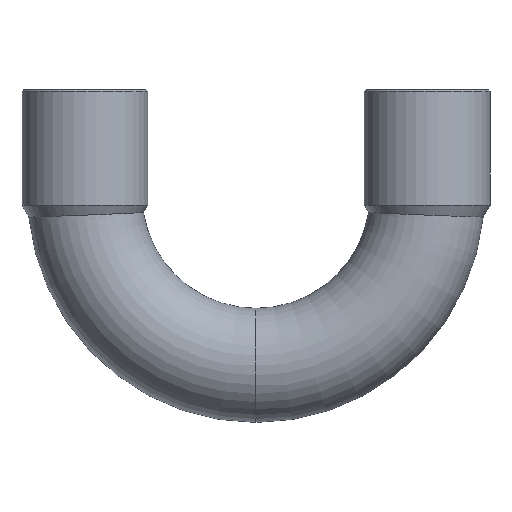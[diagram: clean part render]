
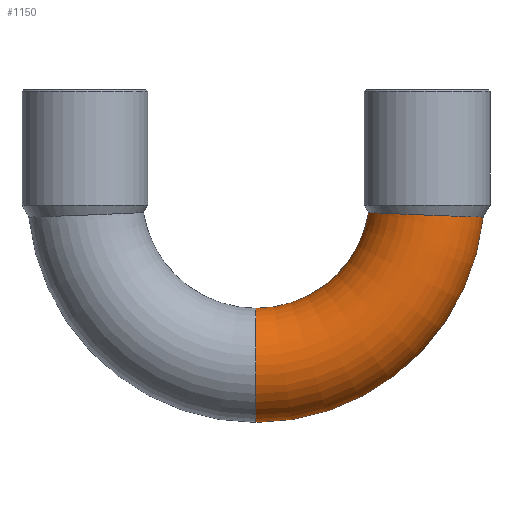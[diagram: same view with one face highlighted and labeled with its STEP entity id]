
A CAD part, front view. The second image highlights one B-rep face of the part: STEP entity #1150.
In plain terms, the highlighted toroidal (fillet/blend) face has major radius 18 mm and minor radius 6 mm.
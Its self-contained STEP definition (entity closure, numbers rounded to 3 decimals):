
#51=CARTESIAN_POINT('',(22.035,0.,-24.0));
#52=VERTEX_POINT('',#51);
#85=CARTESIAN_POINT('',(22.035,0.,-12.0));
#86=VERTEX_POINT('',#85);
#109=CARTESIAN_POINT('',(45.914,0.,-2.41));
#110=VERTEX_POINT('',#109);
#111=CARTESIAN_POINT('',(22.035,0.,0.0));
#112=DIRECTION('',(0.0,-1.0,0.0));
#113=DIRECTION('',(0.0,0.0,-1.0));
#114=AXIS2_PLACEMENT_3D('',#111,#112,#113);
#115=CIRCLE('',#114,24.0);
#116=EDGE_CURVE('',#52,#110,#115,.T.);
#119=CARTESIAN_POINT('',(33.879,0.,-1.93));
#120=VERTEX_POINT('',#119);
#121=CARTESIAN_POINT('',(22.035,0.,0.0));
#122=DIRECTION('',(0.0,1.0,0.0));
#123=DIRECTION('',(0.0,0.0,-1.0));
#124=AXIS2_PLACEMENT_3D('',#121,#122,#123);
#125=CIRCLE('',#124,12.0);
#126=EDGE_CURVE('',#120,#86,#125,.T.);
#1111=CARTESIAN_POINT('',(22.035,0.,0.0));
#1112=DIRECTION('',(0.0,-1.0,0.0));
#1113=DIRECTION('',(0.0,0.0,-1.0));
#1114=AXIS2_PLACEMENT_3D('',#1111,#1112,#1113);
#1115=TOROIDAL_SURFACE('',#1114,18.0,6.);
#1116=ORIENTED_EDGE('',*,*,#116,.T.);
#1117=CARTESIAN_POINT('',(45.914,0.,-2.41));
#1118=CARTESIAN_POINT('',(45.914,-0.442,-2.41));
#1119=CARTESIAN_POINT('',(45.865,-0.882,-2.409));
#1120=CARTESIAN_POINT('',(45.671,-1.744,-2.402));
#1121=CARTESIAN_POINT('',(45.527,-2.163,-2.397));
#1122=CARTESIAN_POINT('',(45.004,-3.269,-2.38));
#1123=CARTESIAN_POINT('',(44.534,-3.903,-2.365));
#1124=CARTESIAN_POINT('',(43.377,-4.958,-2.325));
#1125=CARTESIAN_POINT('',(42.7,-5.368,-2.301));
#1126=CARTESIAN_POINT('',(41.224,-5.905,-2.248));
#1127=CARTESIAN_POINT('',(40.44,-6.027,-2.219));
#1128=CARTESIAN_POINT('',(38.869,-5.963,-2.157));
#1129=CARTESIAN_POINT('',(38.097,-5.778,-2.125));
#1130=CARTESIAN_POINT('',(36.67,-5.123,-2.064));
#1131=CARTESIAN_POINT('',(36.029,-4.66,-2.035));
#1132=CARTESIAN_POINT('',(34.962,-3.518,-1.984));
#1133=CARTESIAN_POINT('',(34.546,-2.851,-1.964));
#1134=CARTESIAN_POINT('',(34.011,-1.444,-1.936));
#1135=CARTESIAN_POINT('',(33.879,-0.725,-1.93));
#1136=CARTESIAN_POINT('',(33.879,0.,-1.93));
#1137=B_SPLINE_CURVE_WITH_KNOTS('',3,(#1117,#1118,#1119,#1120,#1121,#1122,#1123,#1124,#1125,#1126,#1127,#1128,#1129,#1130,#1131,#1132,#1133,#1134,#1135,#1136),.UNSPECIFIED.,.F.,.U.,(4,2,2,2,2,2,2,2,2,4),(-3.788,-3.655,-3.523,-3.288,-3.053,-2.817,-2.581,-2.346,-2.112,-1.894),.UNSPECIFIED.);
#1138=EDGE_CURVE('',#110,#120,#1137,.T.);
#1139=ORIENTED_EDGE('',*,*,#1138,.T.);
#1140=ORIENTED_EDGE('',*,*,#126,.T.);
#1141=CARTESIAN_POINT('',(22.035,0.,-18.0));
#1142=DIRECTION('',(-1.0,0.0,0.0));
#1143=DIRECTION('',(0.0,0.0,-1.0));
#1144=AXIS2_PLACEMENT_3D('',#1141,#1142,#1143);
#1145=CIRCLE('',#1144,6.);
#1146=EDGE_CURVE('',#52,#86,#1145,.T.);
#1147=ORIENTED_EDGE('',*,*,#1146,.F.);
#1148=EDGE_LOOP('',(#1116,#1139,#1140,#1147));
#1149=FACE_OUTER_BOUND('',#1148,.T.);
#1150=ADVANCED_FACE('',(#1149),#1115,.T.);
